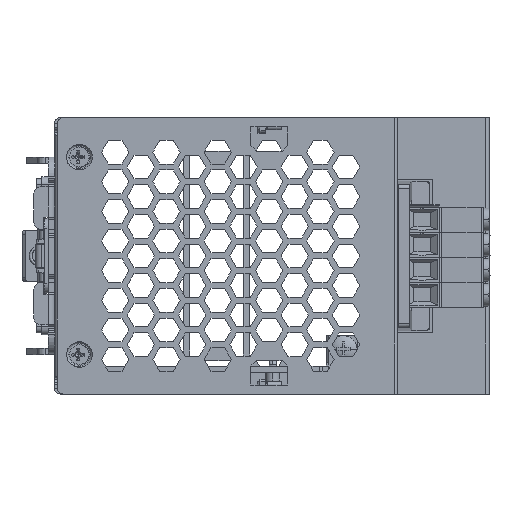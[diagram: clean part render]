
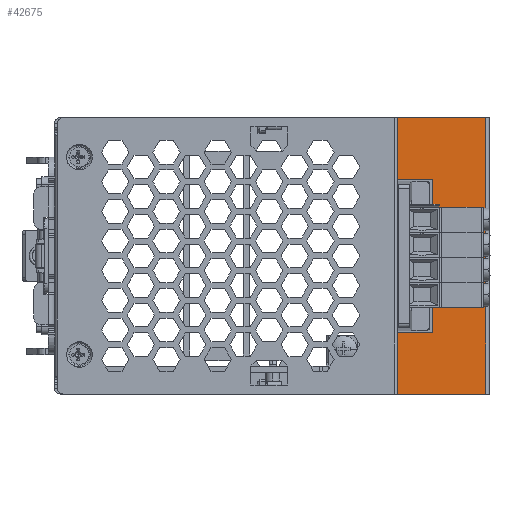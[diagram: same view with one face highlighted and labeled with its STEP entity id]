
A CAD part, front view. The second image highlights one B-rep face of the part: STEP entity #42675.
In plain terms, the highlighted planar face has unit normal (0, -1, 0).
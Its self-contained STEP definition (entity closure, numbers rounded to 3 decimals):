
#12362=DIRECTION('',(-1.,0.,0.));
#12363=VECTOR('',#12362,22.384);
#12364=CARTESIAN_POINT('',(-0.8,-37.,35.));
#12365=LINE('',#12364,#12363);
#12383=DIRECTION('',(1.,0.,0.));
#12384=VECTOR('',#12383,8.884);
#12385=CARTESIAN_POINT('',(-23.184,-37.,19.35));
#12386=LINE('',#12385,#12384);
#12390=DIRECTION('',(0.,0.,1.));
#12391=VECTOR('',#12390,70.);
#12392=CARTESIAN_POINT('',(-0.8,-37.,-35.));
#12393=LINE('',#12392,#12391);
#12397=DIRECTION('',(1.,0.,0.));
#12398=VECTOR('',#12397,8.884);
#12399=CARTESIAN_POINT('',(-23.184,-37.,-19.35));
#12400=LINE('',#12399,#12398);
#12404=DIRECTION('',(0.,0.,-1.));
#12405=VECTOR('',#12404,38.7);
#12406=CARTESIAN_POINT('',(-14.3,-37.,19.35));
#12407=LINE('',#12406,#12405);
#12433=DIRECTION('',(0.,0.,1.));
#12434=VECTOR('',#12433,15.65);
#12435=CARTESIAN_POINT('',(-23.184,-37.,19.35));
#12436=LINE('',#12435,#12434);
#12448=DIRECTION('',(0.,0.,1.));
#12449=VECTOR('',#12448,15.65);
#12450=CARTESIAN_POINT('',(-23.184,-37.,-35.));
#12451=LINE('',#12450,#12449);
#13806=DIRECTION('',(-1.,0.,0.));
#13807=VECTOR('',#13806,22.384);
#13808=CARTESIAN_POINT('',(-0.8,-37.,-35.));
#13809=LINE('',#13808,#13807);
#39035=CARTESIAN_POINT('',(-0.8,-37.,-35.));
#39036=VERTEX_POINT('',#39035);
#39037=CARTESIAN_POINT('',(-0.8,-37.,35.));
#39038=VERTEX_POINT('',#39037);
#39043=CARTESIAN_POINT('',(-23.184,-37.,-35.));
#39044=VERTEX_POINT('',#39043);
#39051=CARTESIAN_POINT('',(-23.184,-37.,35.));
#39052=VERTEX_POINT('',#39051);
#39075=CARTESIAN_POINT('',(-23.184,-37.,19.35));
#39076=CARTESIAN_POINT('',(-14.3,-37.,19.35));
#39077=VERTEX_POINT('',#39075);
#39078=VERTEX_POINT('',#39076);
#39079=CARTESIAN_POINT('',(-14.3,-37.,-19.35));
#39080=VERTEX_POINT('',#39079);
#39081=CARTESIAN_POINT('',(-23.184,-37.,-19.35));
#39082=VERTEX_POINT('',#39081);
#42653=CARTESIAN_POINT('',(-0.8,-37.,-35.));
#42654=DIRECTION('',(0.,1.,0.));
#42655=DIRECTION('',(-1.,0.,0.));
#42656=AXIS2_PLACEMENT_3D('',#42653,#42654,#42655);
#42657=PLANE('',#42656);
#42659=ORIENTED_EDGE('',*,*,#42658,.F.);
#42661=ORIENTED_EDGE('',*,*,#42660,.T.);
#42662=ORIENTED_EDGE('',*,*,#42643,.F.);
#42664=ORIENTED_EDGE('',*,*,#42663,.F.);
#42666=ORIENTED_EDGE('',*,*,#42665,.T.);
#42668=ORIENTED_EDGE('',*,*,#42667,.T.);
#42670=ORIENTED_EDGE('',*,*,#42669,.T.);
#42672=ORIENTED_EDGE('',*,*,#42671,.F.);
#42673=EDGE_LOOP('',(#42659,#42661,#42662,#42664,#42666,#42668,#42670,#42672));
#42674=FACE_OUTER_BOUND('',#42673,.F.);
#42643=EDGE_CURVE('',#39038,#39052,#12365,.T.);
#42658=EDGE_CURVE('',#39077,#39078,#12386,.T.);
#42660=EDGE_CURVE('',#39077,#39052,#12436,.T.);
#42663=EDGE_CURVE('',#39036,#39038,#12393,.T.);
#42665=EDGE_CURVE('',#39036,#39044,#13809,.T.);
#42667=EDGE_CURVE('',#39044,#39082,#12451,.T.);
#42669=EDGE_CURVE('',#39082,#39080,#12400,.T.);
#42671=EDGE_CURVE('',#39078,#39080,#12407,.T.);
#42675=ADVANCED_FACE('',(#42674),#42657,.F.);
